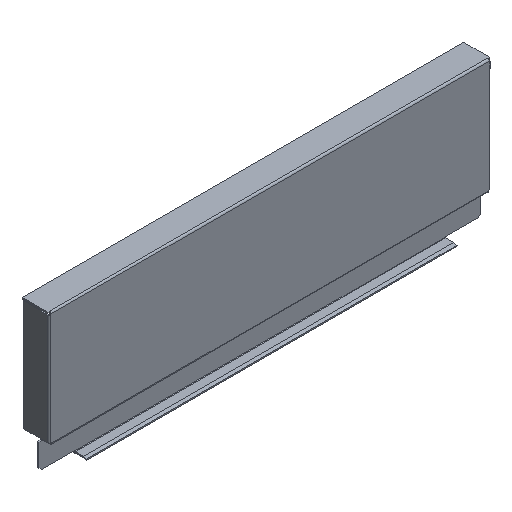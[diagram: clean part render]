
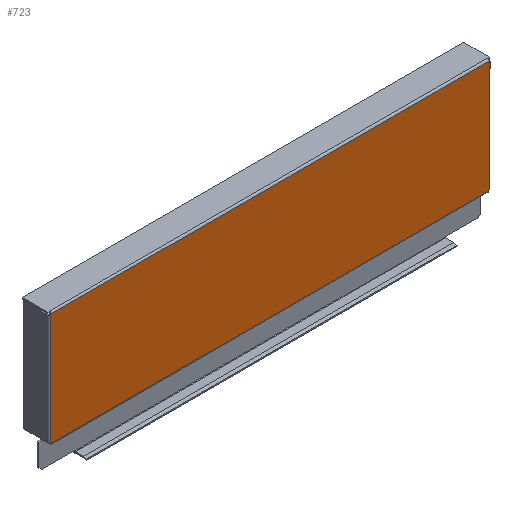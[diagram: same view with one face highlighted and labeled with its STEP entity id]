
A CAD part, isometric view. The second image highlights one B-rep face of the part: STEP entity #723.
In plain terms, the highlighted planar face has unit normal (0, -1, 0).
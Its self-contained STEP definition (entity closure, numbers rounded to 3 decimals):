
#38 = VERTEX_POINT ( 'NONE', #491 ) ;
#42 = VERTEX_POINT ( 'NONE', #490 ) ;
#46 = VERTEX_POINT ( 'NONE', #489 ) ;
#80 = DIRECTION ( 'NONE',  ( 1., 0., 0. ) ) ;
#82 = DIRECTION ( 'NONE',  ( 0., -1., 0. ) ) ;
#83 = CARTESIAN_POINT ( 'NONE',  ( -130., -6., 17. ) ) ;
#84 = PLANE ( 'NONE',  #1244 ) ;
#116 = VERTEX_POINT ( 'NONE', #472 ) ;
#141 = VERTEX_POINT ( 'NONE', #467 ) ;
#241 = VERTEX_POINT ( 'NONE', #436 ) ;
#286 = VERTEX_POINT ( 'NONE', #421 ) ;
#346 = CARTESIAN_POINT ( 'NONE',  ( -129., -6., 17.5 ) ) ;
#361 = CARTESIAN_POINT ( 'NONE',  ( 129., -6., 82.5 ) ) ;
#364 = CARTESIAN_POINT ( 'NONE',  ( 128.5, -6., 17. ) ) ;
#421 = CARTESIAN_POINT ( 'NONE',  ( -128.5, -6., 17.5 ) ) ;
#436 = CARTESIAN_POINT ( 'NONE',  ( 129., -6., 17.5 ) ) ;
#467 = CARTESIAN_POINT ( 'NONE',  ( 128.5, -6., 17.5 ) ) ;
#472 = CARTESIAN_POINT ( 'NONE',  ( -129., -6., 83. ) ) ;
#489 = CARTESIAN_POINT ( 'NONE',  ( 129., -6., 83. ) ) ;
#490 = CARTESIAN_POINT ( 'NONE',  ( -129., -6., 82.5 ) ) ;
#491 = CARTESIAN_POINT ( 'NONE',  ( -128.5, -6., 17. ) ) ;
#549 = VERTEX_POINT ( 'NONE', #364 ) ;
#552 = VERTEX_POINT ( 'NONE', #361 ) ;
#567 = VERTEX_POINT ( 'NONE', #346 ) ;
#723 = ADVANCED_FACE ( 'NONE', ( #2069 ), #84, .T. ) ;
#769 = EDGE_CURVE ( 'NONE', #42, #567, #2130, .T. ) ;
#770 = EDGE_CURVE ( 'NONE', #567, #286, #2132, .T. ) ;
#771 = EDGE_CURVE ( 'NONE', #286, #38, #2134, .T. ) ;
#772 = EDGE_CURVE ( 'NONE', #38, #549, #2136, .T. ) ;
#773 = EDGE_CURVE ( 'NONE', #549, #141, #2138, .T. ) ;
#774 = EDGE_CURVE ( 'NONE', #141, #241, #2140, .T. ) ;
#775 = EDGE_CURVE ( 'NONE', #552, #241, #2142, .T. ) ;
#776 = EDGE_CURVE ( 'NONE', #46, #552, #2144, .T. ) ;
#777 = EDGE_CURVE ( 'NONE', #116, #46, #2146, .T. ) ;
#983 = EDGE_LOOP ( 'NONE', ( #1959, #1958, #1957, #1956, #1955, #1954, #1953, #1952, #1951, #1950 ) ) ;
#1126 = DIRECTION ( 'NONE',  ( 0., 0., -1. ) ) ;
#1128 = CARTESIAN_POINT ( 'NONE',  ( -129., -6., 101.385 ) ) ;
#1244 = AXIS2_PLACEMENT_3D ( 'NONE', #83, #82, #80 ) ;
#1343 = EDGE_CURVE ( 'NONE', #116, #42, #2283, .T. ) ;
#1587 = DIRECTION ( 'NONE',  ( 1., 0., 0. ) ) ;
#1588 = CARTESIAN_POINT ( 'NONE',  ( -130., -6., 83. ) ) ;
#1589 = DIRECTION ( 'NONE',  ( 0., 0., -1. ) ) ;
#1590 = CARTESIAN_POINT ( 'NONE',  ( 129., -6., 101.385 ) ) ;
#1593 = DIRECTION ( 'NONE',  ( 0., 0., -1. ) ) ;
#1594 = CARTESIAN_POINT ( 'NONE',  ( 129., -6., 101.385 ) ) ;
#1596 = DIRECTION ( 'NONE',  ( 1., 0., 0. ) ) ;
#1597 = CARTESIAN_POINT ( 'NONE',  ( 128.5, -6., 17.5 ) ) ;
#1598 = DIRECTION ( 'NONE',  ( 0., 0., 1. ) ) ;
#1599 = CARTESIAN_POINT ( 'NONE',  ( 128.5, -6., 15.3 ) ) ;
#1600 = DIRECTION ( 'NONE',  ( 1., 0., 0. ) ) ;
#1601 = CARTESIAN_POINT ( 'NONE',  ( -130., -6., 17. ) ) ;
#1604 = DIRECTION ( 'NONE',  ( 0., 0., -1. ) ) ;
#1605 = CARTESIAN_POINT ( 'NONE',  ( -128.5, -6., 17.5 ) ) ;
#1607 = DIRECTION ( 'NONE',  ( 1., 0., 0. ) ) ;
#1608 = CARTESIAN_POINT ( 'NONE',  ( -130., -6., 17.5 ) ) ;
#1609 = DIRECTION ( 'NONE',  ( 0., 0., -1. ) ) ;
#1610 = CARTESIAN_POINT ( 'NONE',  ( -129., -6., 101.385 ) ) ;
#1950 = ORIENTED_EDGE ( 'NONE', *, *, #1343, .T. ) ;
#1951 = ORIENTED_EDGE ( 'NONE', *, *, #777, .F. ) ;
#1952 = ORIENTED_EDGE ( 'NONE', *, *, #776, .F. ) ;
#1953 = ORIENTED_EDGE ( 'NONE', *, *, #775, .F. ) ;
#1954 = ORIENTED_EDGE ( 'NONE', *, *, #774, .T. ) ;
#1955 = ORIENTED_EDGE ( 'NONE', *, *, #773, .T. ) ;
#1956 = ORIENTED_EDGE ( 'NONE', *, *, #772, .T. ) ;
#1957 = ORIENTED_EDGE ( 'NONE', *, *, #771, .T. ) ;
#1958 = ORIENTED_EDGE ( 'NONE', *, *, #770, .T. ) ;
#1959 = ORIENTED_EDGE ( 'NONE', *, *, #769, .T. ) ;
#2069 = FACE_OUTER_BOUND ( 'NONE', #983, .T. ) ;
#2130 = LINE ( 'NONE', #1610, #2131 ) ;
#2131 = VECTOR ( 'NONE', #1609, 1000. ) ;
#2132 = LINE ( 'NONE', #1608, #2133 ) ;
#2133 = VECTOR ( 'NONE', #1607, 1000. ) ;
#2134 = LINE ( 'NONE', #1605, #2135 ) ;
#2135 = VECTOR ( 'NONE', #1604, 1000. ) ;
#2136 = LINE ( 'NONE', #1601, #2137 ) ;
#2137 = VECTOR ( 'NONE', #1600, 1000. ) ;
#2138 = LINE ( 'NONE', #1599, #2139 ) ;
#2139 = VECTOR ( 'NONE', #1598, 1000. ) ;
#2140 = LINE ( 'NONE', #1597, #2141 ) ;
#2141 = VECTOR ( 'NONE', #1596, 1000. ) ;
#2142 = LINE ( 'NONE', #1594, #2143 ) ;
#2143 = VECTOR ( 'NONE', #1593, 1000. ) ;
#2144 = LINE ( 'NONE', #1590, #2145 ) ;
#2145 = VECTOR ( 'NONE', #1589, 1000. ) ;
#2146 = LINE ( 'NONE', #1588, #2147 ) ;
#2147 = VECTOR ( 'NONE', #1587, 1000. ) ;
#2283 = LINE ( 'NONE', #1128, #2284 ) ;
#2284 = VECTOR ( 'NONE', #1126, 1000. ) ;
